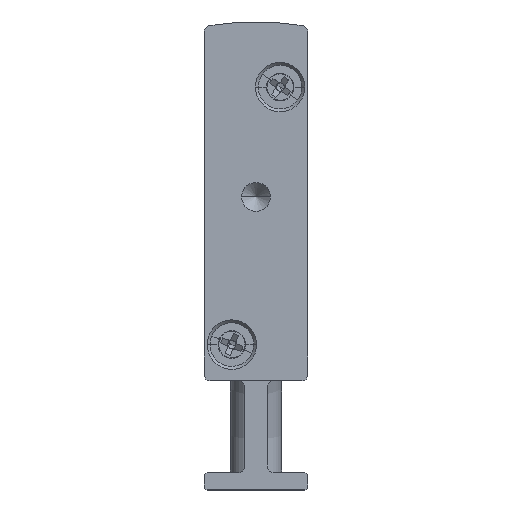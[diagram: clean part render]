
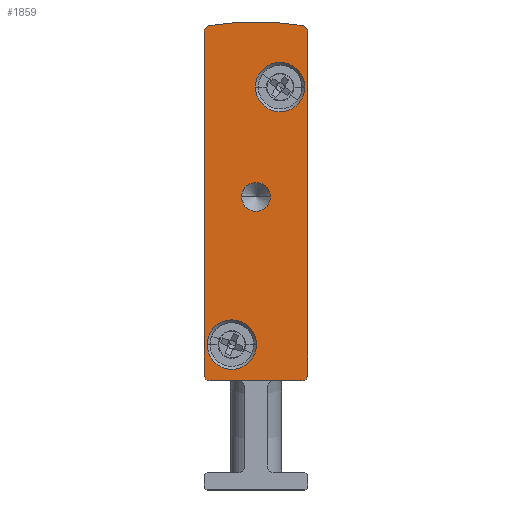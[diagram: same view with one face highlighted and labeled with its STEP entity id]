
A CAD part, front view. The second image highlights one B-rep face of the part: STEP entity #1859.
In plain terms, the highlighted planar face has unit normal (0, -1, 0).
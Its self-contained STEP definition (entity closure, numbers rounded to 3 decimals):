
#94 = DIRECTION ( 'NONE',  ( 0., 1., 0. ) ) ;
#151 = EDGE_LOOP ( 'NONE', ( #18085, #1056 ) ) ;
#552 = VERTEX_POINT ( 'NONE', #4088 ) ;
#1031 = VERTEX_POINT ( 'NONE', #11232 ) ;
#1056 = ORIENTED_EDGE ( 'NONE', *, *, #9064, .F. ) ;
#1135 = EDGE_CURVE ( 'NONE', #4674, #552, #6680, .T. ) ;
#1139 = CARTESIAN_POINT ( 'NONE',  ( 4.5, -2.5, 25.5 ) ) ;
#1203 = DIRECTION ( 'NONE',  ( 0., 1., 0. ) ) ;
#1594 = CARTESIAN_POINT ( 'NONE',  ( 0., -2.5, 10. ) ) ;
#1834 = ORIENTED_EDGE ( 'NONE', *, *, #8711, .T. ) ;
#1859 = ADVANCED_FACE ( 'NONE', ( #18856, #6367, #14823, #12470 ), #3471, .F. ) ;
#1896 = ORIENTED_EDGE ( 'NONE', *, *, #7162, .F. ) ;
#1999 = CIRCLE ( 'NONE', #4462, 2.15 ) ;
#2009 = ORIENTED_EDGE ( 'NONE', *, *, #11161, .F. ) ;
#2088 = DIRECTION ( 'NONE',  ( 1., 0., 0. ) ) ;
#2183 = CIRCLE ( 'NONE', #15361, 0.5 ) ;
#2197 = CARTESIAN_POINT ( 'NONE',  ( 9., -2.5, 39.902 ) ) ;
#2223 = AXIS2_PLACEMENT_3D ( 'NONE', #4335, #5707, #16443 ) ;
#2615 = CARTESIAN_POINT ( 'NONE',  ( 6.6, -2.5, 35.05 ) ) ;
#2654 = EDGE_CURVE ( 'NONE', #8468, #9214, #7958, .T. ) ;
#2672 = CARTESIAN_POINT ( 'NONE',  ( 9., -2.5, 39.902 ) ) ;
#2733 = DIRECTION ( 'NONE',  ( 0., 1., 0. ) ) ;
#2898 = CIRCLE ( 'NONE', #4951, 2.15 ) ;
#2963 = CARTESIAN_POINT ( 'NONE',  ( 4.5, -2.5, 25.5 ) ) ;
#2987 = DIRECTION ( 'NONE',  ( -1., 0., 0. ) ) ;
#3240 = VERTEX_POINT ( 'NONE', #13456 ) ;
#3471 = PLANE ( 'NONE',  #7021 ) ;
#3539 = DIRECTION ( 'NONE',  ( 0., 1., 0. ) ) ;
#3847 = EDGE_CURVE ( 'NONE', #3240, #5272, #15138, .T. ) ;
#3876 = ORIENTED_EDGE ( 'NONE', *, *, #17473, .F. ) ;
#3893 = DIRECTION ( 'NONE',  ( -1., 0., 0. ) ) ;
#3922 = VECTOR ( 'NONE', #16034, 1000. ) ;
#4088 = CARTESIAN_POINT ( 'NONE',  ( 9., -2.5, 10. ) ) ;
#4142 = DIRECTION ( 'NONE',  ( 1., 0., 0. ) ) ;
#4332 = AXIS2_PLACEMENT_3D ( 'NONE', #7220, #2733, #13248 ) ;
#4335 = CARTESIAN_POINT ( 'NONE',  ( 8.5, -2.5, 39.902 ) ) ;
#4454 = EDGE_CURVE ( 'NONE', #13068, #6494, #2898, .T. ) ;
#4462 = AXIS2_PLACEMENT_3D ( 'NONE', #17245, #11120, #2088 ) ;
#4479 = DIRECTION ( 'NONE',  ( 0., 1., 0. ) ) ;
#4516 = DIRECTION ( 'NONE',  ( 1., 0., 0. ) ) ;
#4674 = VERTEX_POINT ( 'NONE', #2197 ) ;
#4951 = AXIS2_PLACEMENT_3D ( 'NONE', #16690, #16633, #4516 ) ;
#4956 = CARTESIAN_POINT ( 'NONE',  ( 3.25, -2.5, 25.5 ) ) ;
#5124 = EDGE_LOOP ( 'NONE', ( #12731, #3876, #1896, #2009, #12457, #11036, #13102, #9409 ) ) ;
#5272 = VERTEX_POINT ( 'NONE', #8112 ) ;
#5500 = CARTESIAN_POINT ( 'NONE',  ( 0.5, -2.5, 9.5 ) ) ;
#5520 = CIRCLE ( 'NONE', #13504, 2.15 ) ;
#5707 = DIRECTION ( 'NONE',  ( 0., 1., 0. ) ) ;
#6273 = AXIS2_PLACEMENT_3D ( 'NONE', #1139, #19262, #11668 ) ;
#6325 = CARTESIAN_POINT ( 'NONE',  ( 0.5, -2.5, 39.902 ) ) ;
#6367 = FACE_BOUND ( 'NONE', #16766, .T. ) ;
#6472 = CARTESIAN_POINT ( 'NONE',  ( 0.25, -2.5, 12.65 ) ) ;
#6494 = VERTEX_POINT ( 'NONE', #9893 ) ;
#6680 = LINE ( 'NONE', #2672, #10681 ) ;
#6755 = AXIS2_PLACEMENT_3D ( 'NONE', #18128, #94, #2987 ) ;
#7021 = AXIS2_PLACEMENT_3D ( 'NONE', #6325, #3539, #9556 ) ;
#7162 = EDGE_CURVE ( 'NONE', #12036, #13803, #9257, .T. ) ;
#7220 = CARTESIAN_POINT ( 'NONE',  ( 4.5, -2.5, 17.092 ) ) ;
#7708 = EDGE_CURVE ( 'NONE', #5272, #4674, #12040, .T. ) ;
#7958 = CIRCLE ( 'NONE', #6273, 1.25 ) ;
#7984 = AXIS2_PLACEMENT_3D ( 'NONE', #2963, #4479, #11928 ) ;
#8006 = EDGE_CURVE ( 'NONE', #6494, #13068, #15308, .T. ) ;
#8112 = CARTESIAN_POINT ( 'NONE',  ( 8.592, -2.5, 40.393 ) ) ;
#8128 = CIRCLE ( 'NONE', #6755, 0.5 ) ;
#8198 = DIRECTION ( 'NONE',  ( 0., -1., 0. ) ) ;
#8435 = CARTESIAN_POINT ( 'NONE',  ( 0.5, -2.5, 39.902 ) ) ;
#8468 = VERTEX_POINT ( 'NONE', #4956 ) ;
#8711 = EDGE_CURVE ( 'NONE', #9214, #8468, #17353, .T. ) ;
#8894 = DIRECTION ( 'NONE',  ( -1., 0., 0. ) ) ;
#9064 = EDGE_CURVE ( 'NONE', #10825, #13583, #1999, .T. ) ;
#9214 = VERTEX_POINT ( 'NONE', #17704 ) ;
#9242 = EDGE_CURVE ( 'NONE', #13583, #10825, #5520, .T. ) ;
#9257 = CIRCLE ( 'NONE', #17618, 0.5 ) ;
#9409 = ORIENTED_EDGE ( 'NONE', *, *, #3847, .F. ) ;
#9556 = DIRECTION ( 'NONE',  ( -1., 0., 0. ) ) ;
#9893 = CARTESIAN_POINT ( 'NONE',  ( 4.55, -2.5, 12.65 ) ) ;
#10211 = DIRECTION ( 'NONE',  ( 0., 0., 1. ) ) ;
#10550 = CARTESIAN_POINT ( 'NONE',  ( 8.5, -2.5, 9.5 ) ) ;
#10681 = VECTOR ( 'NONE', #16305, 1000. ) ;
#10825 = VERTEX_POINT ( 'NONE', #13852 ) ;
#10994 = ORIENTED_EDGE ( 'NONE', *, *, #4454, .F. ) ;
#11036 = ORIENTED_EDGE ( 'NONE', *, *, #1135, .F. ) ;
#11120 = DIRECTION ( 'NONE',  ( 0., -1., 0. ) ) ;
#11161 = EDGE_CURVE ( 'NONE', #13855, #12036, #15932, .T. ) ;
#11232 = CARTESIAN_POINT ( 'NONE',  ( 0., -2.5, 39.902 ) ) ;
#11668 = DIRECTION ( 'NONE',  ( -1., 0., 0. ) ) ;
#11796 = EDGE_LOOP ( 'NONE', ( #15364, #1834 ) ) ;
#11928 = DIRECTION ( 'NONE',  ( -1., 0., 0. ) ) ;
#12036 = VERTEX_POINT ( 'NONE', #5500 ) ;
#12040 = CIRCLE ( 'NONE', #2223, 0.5 ) ;
#12457 = ORIENTED_EDGE ( 'NONE', *, *, #15485, .F. ) ;
#12470 = FACE_BOUND ( 'NONE', #11796, .T. ) ;
#12731 = ORIENTED_EDGE ( 'NONE', *, *, #13167, .F. ) ;
#12978 = CARTESIAN_POINT ( 'NONE',  ( 8.75, -2.5, 35.05 ) ) ;
#13068 = VERTEX_POINT ( 'NONE', #6472 ) ;
#13102 = ORIENTED_EDGE ( 'NONE', *, *, #7708, .F. ) ;
#13127 = DIRECTION ( 'NONE',  ( 0., -1., 0. ) ) ;
#13167 = EDGE_CURVE ( 'NONE', #1031, #3240, #2183, .T. ) ;
#13248 = DIRECTION ( 'NONE',  ( -1., 0., 0. ) ) ;
#13456 = CARTESIAN_POINT ( 'NONE',  ( 0.408, -2.5, 40.393 ) ) ;
#13504 = AXIS2_PLACEMENT_3D ( 'NONE', #2615, #13127, #4142 ) ;
#13583 = VERTEX_POINT ( 'NONE', #12978 ) ;
#13803 = VERTEX_POINT ( 'NONE', #1594 ) ;
#13852 = CARTESIAN_POINT ( 'NONE',  ( 4.45, -2.5, 35.05 ) ) ;
#13855 = VERTEX_POINT ( 'NONE', #10550 ) ;
#14280 = DIRECTION ( 'NONE',  ( 0., 1., 0. ) ) ;
#14823 = FACE_OUTER_BOUND ( 'NONE', #5124, .T. ) ;
#15138 = CIRCLE ( 'NONE', #4332, 23.658 ) ;
#15308 = CIRCLE ( 'NONE', #17649, 2.15 ) ;
#15361 = AXIS2_PLACEMENT_3D ( 'NONE', #8435, #14280, #3893 ) ;
#15364 = ORIENTED_EDGE ( 'NONE', *, *, #2654, .T. ) ;
#15485 = EDGE_CURVE ( 'NONE', #552, #13855, #8128, .T. ) ;
#15932 = LINE ( 'NONE', #19234, #3922 ) ;
#16034 = DIRECTION ( 'NONE',  ( -1., 0., 0. ) ) ;
#16226 = VECTOR ( 'NONE', #10211, 1000. ) ;
#16265 = CARTESIAN_POINT ( 'NONE',  ( 0.5, -2.5, 10. ) ) ;
#16305 = DIRECTION ( 'NONE',  ( 0., 0., -1. ) ) ;
#16443 = DIRECTION ( 'NONE',  ( -1., 0., 0. ) ) ;
#16633 = DIRECTION ( 'NONE',  ( 0., -1., 0. ) ) ;
#16690 = CARTESIAN_POINT ( 'NONE',  ( 2.4, -2.5, 12.65 ) ) ;
#16766 = EDGE_LOOP ( 'NONE', ( #17469, #10994 ) ) ;
#17225 = CARTESIAN_POINT ( 'NONE',  ( 2.4, -2.5, 12.65 ) ) ;
#17245 = CARTESIAN_POINT ( 'NONE',  ( 6.6, -2.5, 35.05 ) ) ;
#17353 = CIRCLE ( 'NONE', #7984, 1.25 ) ;
#17469 = ORIENTED_EDGE ( 'NONE', *, *, #8006, .F. ) ;
#17473 = EDGE_CURVE ( 'NONE', #13803, #1031, #17875, .T. ) ;
#17618 = AXIS2_PLACEMENT_3D ( 'NONE', #16265, #1203, #8894 ) ;
#17649 = AXIS2_PLACEMENT_3D ( 'NONE', #17225, #8198, #18747 ) ;
#17704 = CARTESIAN_POINT ( 'NONE',  ( 5.75, -2.5, 25.5 ) ) ;
#17875 = LINE ( 'NONE', #19247, #16226 ) ;
#18085 = ORIENTED_EDGE ( 'NONE', *, *, #9242, .F. ) ;
#18128 = CARTESIAN_POINT ( 'NONE',  ( 8.5, -2.5, 10. ) ) ;
#18747 = DIRECTION ( 'NONE',  ( 1., 0., 0. ) ) ;
#18856 = FACE_BOUND ( 'NONE', #151, .T. ) ;
#19234 = CARTESIAN_POINT ( 'NONE',  ( 0.5, -2.5, 9.5 ) ) ;
#19247 = CARTESIAN_POINT ( 'NONE',  ( 0., -2.5, 39.902 ) ) ;
#19262 = DIRECTION ( 'NONE',  ( 0., 1., 0. ) ) ;
